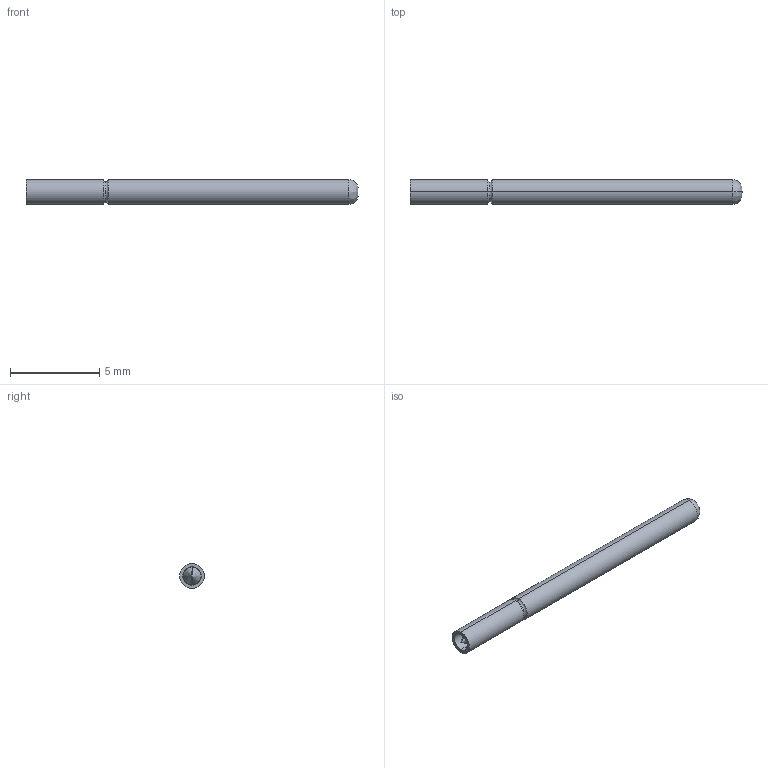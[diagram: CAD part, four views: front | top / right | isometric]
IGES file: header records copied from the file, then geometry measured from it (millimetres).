
Start section: SolidWorks IGES file using analytic representation for surfaces
Global section: file name: O:\PYLON\IGES FILES\P2664\P2664G-1C1S FULL.IGS; native system: SolidWorks 2015; preprocessor: SolidWorks 2015; author: kgolden; date: 171019.131951; units: inch
Bounding box: 18.56 x 1.37 x 1.37 mm (x, y, z)
Surface area: 89.6 mm2 (no closed solid volume)
Topology: 0 solids, 0 shells, 18 faces, 112 edges, 110 vertices
Faces by surface type: revolution 10, bspline 8
